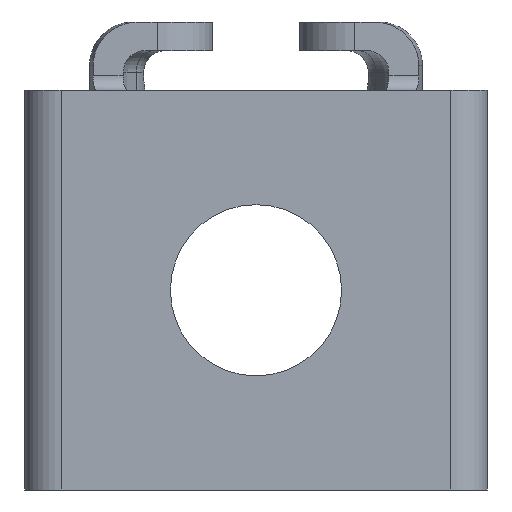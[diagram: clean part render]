
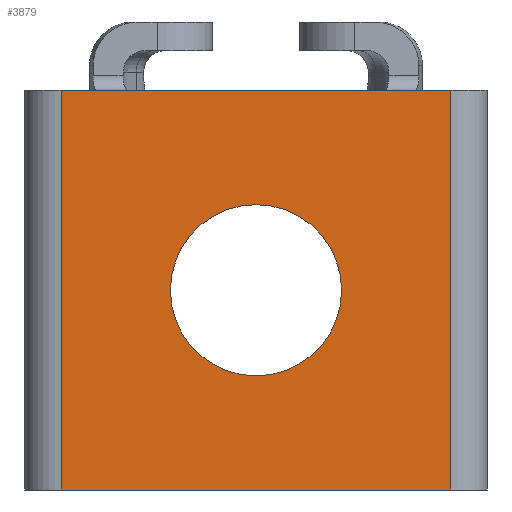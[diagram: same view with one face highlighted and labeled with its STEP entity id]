
A CAD part, front view. The second image highlights one B-rep face of the part: STEP entity #3879.
In plain terms, the highlighted planar face has unit normal (0, -1, 0).
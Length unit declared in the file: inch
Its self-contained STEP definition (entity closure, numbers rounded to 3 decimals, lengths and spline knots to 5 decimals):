
#72=CIRCLE('',#4056,0.05906);
#142=FACE_BOUND('',#632,.T.);
#412=FACE_OUTER_BOUND('',#631,.T.);
#631=EDGE_LOOP('',(#3549,#3550,#3551,#3552));
#632=EDGE_LOOP('',(#3553));
#1046=LINE('',#6864,#1390);
#1115=LINE('',#7234,#1459);
#1124=LINE('',#7255,#1468);
#1125=LINE('',#7258,#1469);
#1390=VECTOR('',#4545,0.3937);
#1459=VECTOR('',#4822,0.3937);
#1468=VECTOR('',#4849,0.3937);
#1469=VECTOR('',#4854,0.3937);
#1759=VERTEX_POINT('',#6861);
#1760=VERTEX_POINT('',#6863);
#1817=VERTEX_POINT('',#7137);
#1846=VERTEX_POINT('',#7231);
#1847=VERTEX_POINT('',#7233);
#2264=EDGE_CURVE('',#1759,#1760,#1046,.T.);
#2353=EDGE_CURVE('',#1817,#1817,#72,.T.);
#2402=EDGE_CURVE('',#1846,#1847,#1115,.T.);
#2414=EDGE_CURVE('',#1847,#1759,#1124,.T.);
#2415=EDGE_CURVE('',#1760,#1846,#1125,.T.);
#3549=ORIENTED_EDGE('',*,*,#2414,.F.);
#3550=ORIENTED_EDGE('',*,*,#2402,.F.);
#3551=ORIENTED_EDGE('',*,*,#2415,.F.);
#3552=ORIENTED_EDGE('',*,*,#2264,.F.);
#3553=ORIENTED_EDGE('',*,*,#2353,.T.);
#3663=PLANE('',#4113);
#3879=ADVANCED_FACE('',(#412,#142),#3663,.T.);
#4056=AXIS2_PLACEMENT_3D('',#7138,#4721,#4722);
#4113=AXIS2_PLACEMENT_3D('',#7279,#4882,#4883);
#4545=DIRECTION('',(1.,0.,0.));
#4721=DIRECTION('center_axis',(0.,1.,0.));
#4722=DIRECTION('ref_axis',(-1.,0.,0.));
#4822=DIRECTION('',(-1.,0.,0.));
#4849=DIRECTION('',(0.,0.,1.));
#4854=DIRECTION('',(0.,0.,-1.));
#4882=DIRECTION('center_axis',(0.,-1.,0.));
#4883=DIRECTION('ref_axis',(1.,0.,0.));
#6861=CARTESIAN_POINT('',(-0.13445,-0.08655,0.1378));
#6863=CARTESIAN_POINT('',(0.13445,-0.08655,0.1378));
#6864=CARTESIAN_POINT('',(-0.15945,-0.08655,0.1378));
#7137=CARTESIAN_POINT('',(0.05906,-0.08655,0.));
#7138=CARTESIAN_POINT('Origin',(0.,-0.08655,
0.));
#7231=CARTESIAN_POINT('',(0.13445,-0.08655,-0.1378));
#7233=CARTESIAN_POINT('',(-0.13445,-0.08655,-0.1378));
#7234=CARTESIAN_POINT('',(-0.15945,-0.08655,-0.1378));
#7255=CARTESIAN_POINT('',(-0.13445,-0.08655,0.));
#7258=CARTESIAN_POINT('',(0.13445,-0.08655,0.));
#7279=CARTESIAN_POINT('Origin',(-0.15945,-0.08655,
0.));
